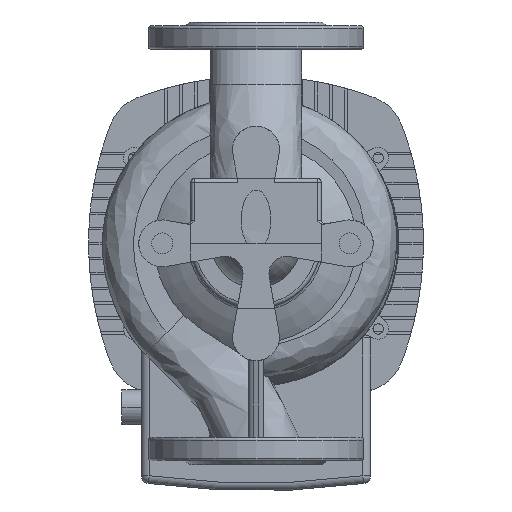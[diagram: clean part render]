
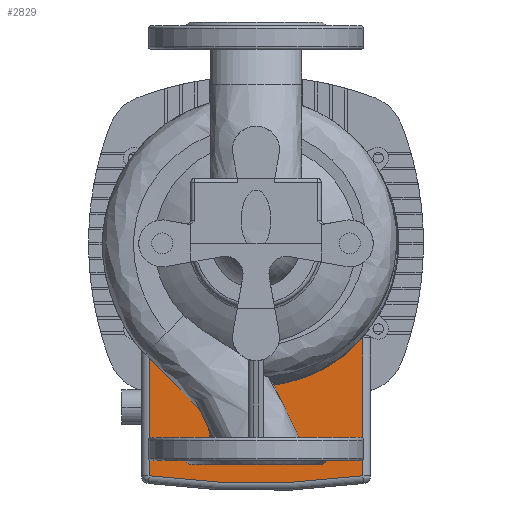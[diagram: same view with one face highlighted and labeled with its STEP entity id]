
A CAD part, front view. The second image highlights one B-rep face of the part: STEP entity #2829.
In plain terms, the highlighted planar face has unit normal (0, -1, 0) as drawn and (0, 0, 1) by its records, which use the part's own axes.
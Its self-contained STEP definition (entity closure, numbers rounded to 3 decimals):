
#49 = ORIENTED_EDGE ( 'NONE', *, *, #5210, .T. ) ;
#464 = VECTOR ( 'NONE', #9017, 1000. ) ;
#1721 = AXIS2_PLACEMENT_3D ( 'NONE', #19012, #17017, #14348 ) ;
#1827 = DIRECTION ( 'NONE',  ( 0., -1., 0. ) ) ;
#2829 = ADVANCED_FACE ( 'NONE', ( #7891 ), #16016, .T. ) ;
#3384 = CARTESIAN_POINT ( 'NONE',  ( 82., 72.569, -140.5 ) ) ;
#3567 = ORIENTED_EDGE ( 'NONE', *, *, #10000, .T. ) ;
#4113 = VERTEX_POINT ( 'NONE', #20451 ) ;
#5009 = CARTESIAN_POINT ( 'NONE',  ( -82., 128.5, -140.5 ) ) ;
#5156 = CIRCLE ( 'NONE', #21330, 607. ) ;
#5210 = EDGE_CURVE ( 'NONE', #4113, #10137, #5156, .T. ) ;
#6083 = CARTESIAN_POINT ( 'NONE',  ( 82., 128.5, -140.5 ) ) ;
#6344 = ORIENTED_EDGE ( 'NONE', *, *, #22209, .T. ) ;
#6441 = DIRECTION ( 'NONE',  ( 0., -1., 0. ) ) ;
#7493 = CARTESIAN_POINT ( 'NONE',  ( -82., 72.569, -140.5 ) ) ;
#7891 = FACE_OUTER_BOUND ( 'NONE', #8024, .T. ) ;
#8024 = EDGE_LOOP ( 'NONE', ( #3567, #17252, #49, #6344 ) ) ;
#9017 = DIRECTION ( 'NONE',  ( 0., -1., 0. ) ) ;
#10000 = EDGE_CURVE ( 'NONE', #20958, #14659, #17072, .T. ) ;
#10079 = DIRECTION ( 'NONE',  ( 0., 0., 1. ) ) ;
#10137 = VERTEX_POINT ( 'NONE', #25703 ) ;
#12194 = LINE ( 'NONE', #6083, #12249 ) ;
#12249 = VECTOR ( 'NONE', #12606, 1000. ) ;
#12606 = DIRECTION ( 'NONE',  ( 0., 1., 0. ) ) ;
#14348 = DIRECTION ( 'NONE',  ( 1., 0., 0. ) ) ;
#14659 = VERTEX_POINT ( 'NONE', #3384 ) ;
#16016 = PLANE ( 'NONE',  #19111 ) ;
#16429 = CARTESIAN_POINT ( 'NONE',  ( 68., 128.5, -140.5 ) ) ;
#17017 = DIRECTION ( 'NONE',  ( 0., 0., -1. ) ) ;
#17072 = CIRCLE ( 'NONE', #1721, 109.5 ) ;
#17252 = ORIENTED_EDGE ( 'NONE', *, *, #18860, .T. ) ;
#18860 = EDGE_CURVE ( 'NONE', #14659, #4113, #12194, .T. ) ;
#18982 = CARTESIAN_POINT ( 'NONE',  ( 0., -423., -140.5 ) ) ;
#19012 = CARTESIAN_POINT ( 'NONE',  ( 0., 0., -140.5 ) ) ;
#19111 = AXIS2_PLACEMENT_3D ( 'NONE', #16429, #22702, #6441 ) ;
#20451 = CARTESIAN_POINT ( 'NONE',  ( 82., 178.436, -140.5 ) ) ;
#20742 = LINE ( 'NONE', #5009, #464 ) ;
#20958 = VERTEX_POINT ( 'NONE', #7493 ) ;
#21330 = AXIS2_PLACEMENT_3D ( 'NONE', #18982, #10079, #1827 ) ;
#22209 = EDGE_CURVE ( 'NONE', #10137, #20958, #20742, .T. ) ;
#22702 = DIRECTION ( 'NONE',  ( 0., 0., 1. ) ) ;
#25703 = CARTESIAN_POINT ( 'NONE',  ( -82., 178.436, -140.5 ) ) ;
